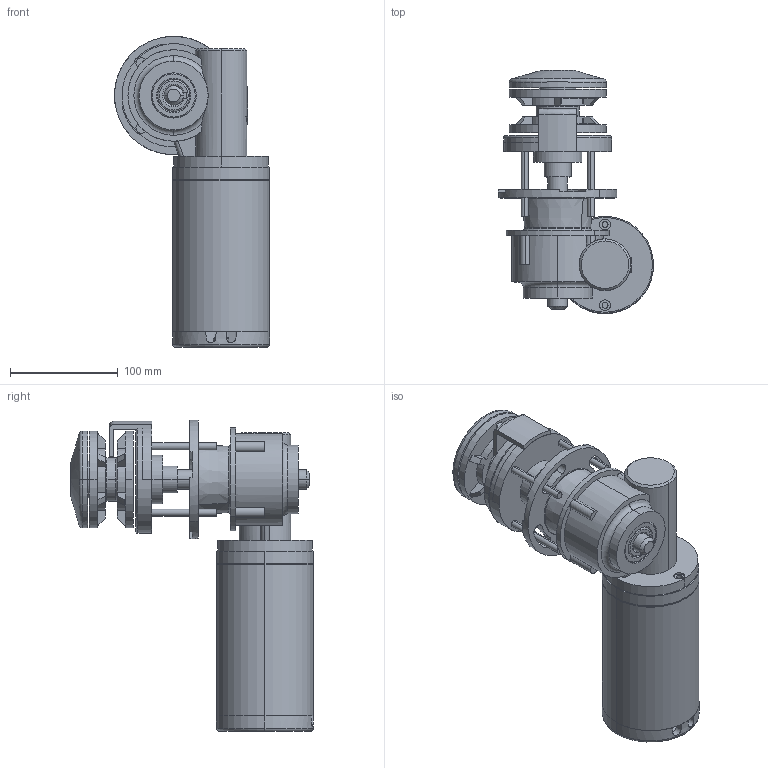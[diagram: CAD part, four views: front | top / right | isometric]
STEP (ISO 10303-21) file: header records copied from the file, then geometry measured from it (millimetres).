
FILE_DESCRIPTION((''),'2;1');
FILE_NAME('PART_SUP_SM_ASM','2023-10-31T',('mario.candellari'),(''),'PRO/ENGINEER BY PARAMETRIC TECHNOLOGY CORPORATION, 2014090','PRO/ENGINEER BY PARAMETRIC TECHNOLOGY CORPORATION, 2014090','');
FILE_SCHEMA(('CONFIG_CONTROL_DESIGN'));
Length unit declared in the file: millimetre
Products named in the file (42): BARBOTIN_6MM_4; FRIZIONE_INF_4; MANIFOLD_SOLID_BREP_13300; MANIFOLD_SOLID_BREP_13389; MANIFOLD_SOLID_BREP_13478; MANIFOLD_SOLID_BREP_13567; BASE_154_ASM; BASE_2_16; VOLANTINO_NEW_8; ASM_A1_ASM_194_ASM; STRIPPER; ORING_3275_TUTTO_1_1; SEEGER_I35_TUTTO_1_1; 51104__20-35-10_A_TUTTO_1_1; AT_30-42-7_TUTTO_1_1; 6201__12-32-10_R_TUTTO_1_1; SC_01-01_TUTTO_1_1; SC02-00_TUTTO_1_1; 6006__30-55-13__TUTTO_1_1; SC_04-00_TUTTO_1_1; SC_03-00_TUTTO_1_1; AT_20-42-7_TUTTO_1_1; SCORPION_R1-66_TUTTO_ASM_1_ASM__ASM; PRT0001_1; PRT0002_1; PRT0003_1; ASM0002_ASM_1_ASM; PRT0004_1; PRT0005_1; ASM0003_ASM_1_ASM; CP500_17_2_1; PRT0006_1; PRT0007_1; COP_CHIUSURA_5_2_1; PRT0008_1; LOFR_5_1_1_1_1_1_1; ASM_RID_A1_ASM_170_ASM_1_ASM_1__ASM; ASM0001_ASM_1_ASM; 500W-IP67_ASM_2_ASM_1_ASM; SCORPION_R1-66_ASM_2_ASM_1_ASM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
Assembly tree (43 placements, depth 7):
  PART_SUP_SM_ASM
    ASM_A1_ASM_194_ASM
      BARBOTIN_6MM_4
      FRIZIONE_INF_4
      BASE_154_ASM
        MANIFOLD_SOLID_BREP_13300
        MANIFOLD_SOLID_BREP_13389
        MANIFOLD_SOLID_BREP_13478
        MANIFOLD_SOLID_BREP_13567
      BASE_2_16
      VOLANTINO_NEW_8
    STRIPPER
    RID_A1_TR_ASM_1_ASM
      SCORPION_R1-66_ASM_2_ASM_1_ASM
        SCORPION_R1-66_TUTTO_ASM_1_ASM__ASM
          ORING_3275_TUTTO_1_1
          SEEGER_I35_TUTTO_1_1
          51104__20-35-10_A_TUTTO_1_1
          AT_30-42-7_TUTTO_1_1  x2
          6201__12-32-10_R_TUTTO_1_1
          SC_01-01_TUTTO_1_1
          SC02-00_TUTTO_1_1
          6006__30-55-13__TUTTO_1_1  x2
          SC_04-00_TUTTO_1_1
          SC_03-00_TUTTO_1_1
          AT_20-42-7_TUTTO_1_1
        500W-IP67_ASM_2_ASM_1_ASM
          ASM0001_ASM_1_ASM
            PRT0001_1
            ASM0002_ASM_1_ASM
              PRT0002_1
              PRT0003_1
            ASM0003_ASM_1_ASM
              PRT0004_1
              PRT0005_1
            CP500_17_2_1
            PRT0006_1
            PRT0007_1
            COP_CHIUSURA_5_2_1
            PRT0008_1
            ASM_RID_A1_ASM_170_ASM_1_ASM_1__ASM
              LOFR_5_1_1_1_1_1_1
Bounding box: 143.97 x 225.5 x 289.22 mm (x, y, z)
Volume: 1753425.1 mm3; surface area: 443180.7 mm2
Topology: 31 solids, 31 shells, 1734 faces, 4577 edges, 2972 vertices
Faces by surface type: cylinder 607, plane 510, torus 269, cone 232, extrusion 49, bspline 43, sphere 24
Entity records: 73677 total; most frequent: CARTESIAN_POINT 31739, ORIENTED_EDGE 8966, DIRECTION 8293, EDGE_CURVE 4483, AXIS2_PLACEMENT_3D 3398, VERTEX_POINT 2940, EDGE_LOOP 1875, FACE_OUTER_BOUND 1706
